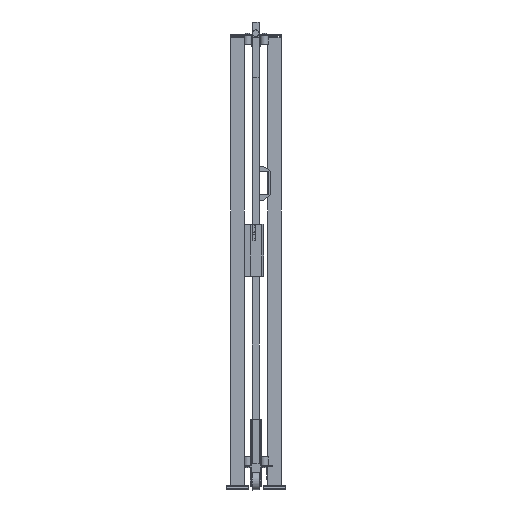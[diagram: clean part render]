
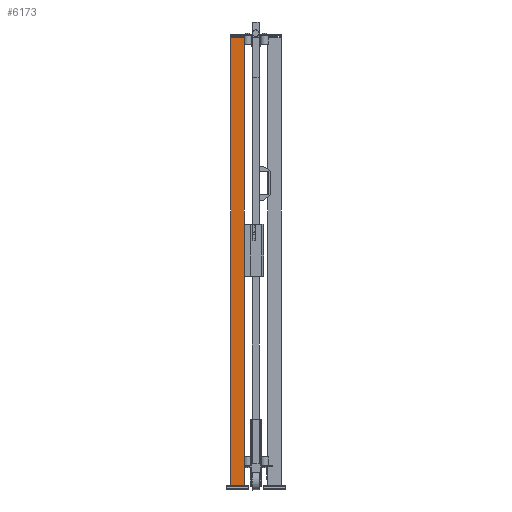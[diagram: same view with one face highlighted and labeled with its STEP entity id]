
A CAD part, left-side view. The second image highlights one B-rep face of the part: STEP entity #6173.
In plain terms, the highlighted planar face has unit normal (-1, 0, 0) as drawn and (0, 1, 0) by its records, which use the part's own axes.
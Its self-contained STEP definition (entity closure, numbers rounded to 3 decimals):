
#628=FACE_OUTER_BOUND('',#1101,.T.);
#1101=EDGE_LOOP('',(#3990,#3991,#3992,#3993));
#1647=VERTEX_POINT('',#13675);
#1648=VERTEX_POINT('',#13677);
#1650=VERTEX_POINT('',#13683);
#1653=VERTEX_POINT('',#13688);
#2545=EDGE_CURVE('',#1647,#1648,#7462,.T.);
#2551=EDGE_CURVE('',#1653,#1650,#7468,.T.);
#2554=EDGE_CURVE('',#1648,#1653,#7471,.T.);
#2555=EDGE_CURVE('',#1647,#1650,#7472,.T.);
#3990=ORIENTED_EDGE('',*,*,#2555,.T.);
#3991=ORIENTED_EDGE('',*,*,#2551,.F.);
#3992=ORIENTED_EDGE('',*,*,#2554,.F.);
#3993=ORIENTED_EDGE('',*,*,#2545,.F.);
#5744=PLANE('',#9526);
#6173=ADVANCED_FACE('',(#628),#5744,.F.);
#7462=LINE('',#13678,#8629);
#7468=LINE('',#13690,#8635);
#7471=LINE('',#13695,#8638);
#7472=LINE('',#13697,#8639);
#8629=VECTOR('',#10754,1.);
#8635=VECTOR('',#10762,1.);
#8638=VECTOR('',#10769,1.);
#8639=VECTOR('',#10772,1.);
#9526=AXIS2_PLACEMENT_3D('',#13696,#10770,#10771);
#10754=DIRECTION('',(-1.,0.,0.));
#10762=DIRECTION('',(1.,0.,0.));
#10769=DIRECTION('',(0.,0.,-1.));
#10770=DIRECTION('center_axis',(0.,-1.,0.));
#10771=DIRECTION('ref_axis',(0.,0.,-1.));
#10772=DIRECTION('',(0.,0.,-1.));
#13675=CARTESIAN_POINT('',(30.,30.,2020.));
#13677=CARTESIAN_POINT('',(-30.,30.,2020.));
#13678=CARTESIAN_POINT('',(0.,30.,2020.));
#13683=CARTESIAN_POINT('',(30.,30.,20.));
#13688=CARTESIAN_POINT('',(-30.,30.,20.));
#13690=CARTESIAN_POINT('',(0.,30.,20.));
#13695=CARTESIAN_POINT('',(-30.,30.,1020.));
#13696=CARTESIAN_POINT('Origin',(0.,30.,
1020.));
#13697=CARTESIAN_POINT('',(30.,30.,1020.));
